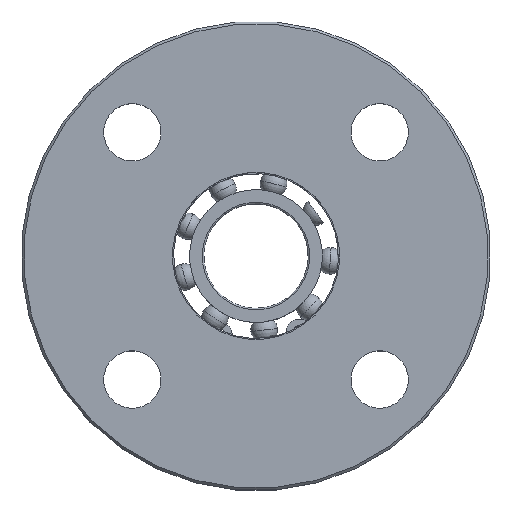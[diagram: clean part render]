
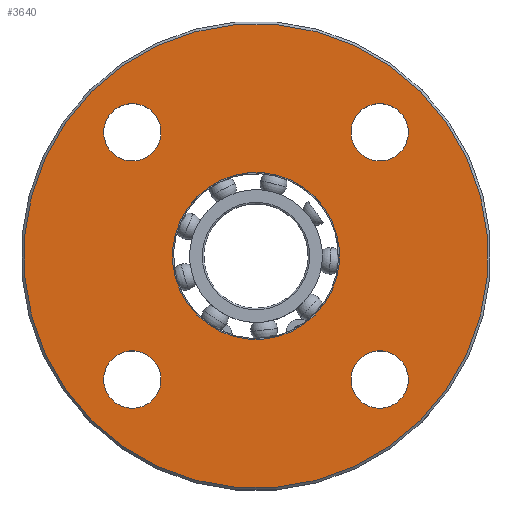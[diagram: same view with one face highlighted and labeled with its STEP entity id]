
A CAD part, top view. The second image highlights one B-rep face of the part: STEP entity #3640.
In plain terms, the highlighted planar face has unit normal (0, 0, 1).
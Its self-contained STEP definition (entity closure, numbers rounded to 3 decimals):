
#65 = CARTESIAN_POINT ( 'NONE',  ( -27.577, 27.577, 286. ) ) ;
#174 = AXIS2_PLACEMENT_3D ( 'NONE', #4052, #3653, #4420 ) ;
#238 = VERTEX_POINT ( 'NONE', #2422 ) ;
#274 = CIRCLE ( 'NONE', #4241, 5.5 ) ;
#341 = EDGE_LOOP ( 'NONE', ( #2489, #1641 ) ) ;
#358 = DIRECTION ( 'NONE',  ( -0.707, -0.707, 0. ) ) ;
#359 = AXIS2_PLACEMENT_3D ( 'NONE', #2735, #3406, #2775 ) ;
#573 = EDGE_CURVE ( 'NONE', #238, #2464, #750, .T. ) ;
#651 = CARTESIAN_POINT ( 'NONE',  ( 27.577, 27.577, 286. ) ) ;
#750 = CIRCLE ( 'NONE', #2147, 16. ) ;
#767 = AXIS2_PLACEMENT_3D ( 'NONE', #2224, #1228, #2304 ) ;
#799 = AXIS2_PLACEMENT_3D ( 'NONE', #1760, #3548, #2500 ) ;
#812 = EDGE_CURVE ( 'NONE', #1252, #4282, #3968, .T. ) ;
#824 = DIRECTION ( 'NONE',  ( 0.707, -0.707, 0. ) ) ;
#839 = CARTESIAN_POINT ( 'NONE',  ( 19.799, -19.799, 286. ) ) ;
#848 = ORIENTED_EDGE ( 'NONE', *, *, #2743, .T. ) ;
#876 = VERTEX_POINT ( 'NONE', #65 ) ;
#890 = DIRECTION ( 'NONE',  ( 0., 0., -1. ) ) ;
#909 = CIRCLE ( 'NONE', #3472, 5.5 ) ;
#927 = DIRECTION ( 'NONE',  ( 0., 0., -1. ) ) ;
#961 = EDGE_LOOP ( 'NONE', ( #4425, #2985 ) ) ;
#973 = DIRECTION ( 'NONE',  ( 0.707, -0.707, 0. ) ) ;
#1128 = FACE_OUTER_BOUND ( 'NONE', #1351, .T. ) ;
#1228 = DIRECTION ( 'NONE',  ( 0., 0., -1. ) ) ;
#1252 = VERTEX_POINT ( 'NONE', #839 ) ;
#1351 = EDGE_LOOP ( 'NONE', ( #3386, #1589 ) ) ;
#1376 = EDGE_CURVE ( 'NONE', #3884, #3478, #3296, .T. ) ;
#1427 = EDGE_LOOP ( 'NONE', ( #1704, #1773 ) ) ;
#1447 = PLANE ( 'NONE',  #3032 ) ;
#1544 = AXIS2_PLACEMENT_3D ( 'NONE', #1971, #3377, #1643 ) ;
#1583 = DIRECTION ( 'NONE',  ( 0., 0., -1. ) ) ;
#1589 = ORIENTED_EDGE ( 'NONE', *, *, #3558, .F. ) ;
#1641 = ORIENTED_EDGE ( 'NONE', *, *, #573, .T. ) ;
#1643 = DIRECTION ( 'NONE',  ( 0.707, 0.707, 0. ) ) ;
#1704 = ORIENTED_EDGE ( 'NONE', *, *, #4216, .T. ) ;
#1709 = CARTESIAN_POINT ( 'NONE',  ( 19.799, 19.799, 286. ) ) ;
#1740 = CARTESIAN_POINT ( 'NONE',  ( 0., 0., 286. ) ) ;
#1760 = CARTESIAN_POINT ( 'NONE',  ( 0., 0., 286. ) ) ;
#1762 = CARTESIAN_POINT ( 'NONE',  ( -19.799, 19.799, 286. ) ) ;
#1773 = ORIENTED_EDGE ( 'NONE', *, *, #3854, .T. ) ;
#1823 = FACE_BOUND ( 'NONE', #2239, .T. ) ;
#1847 = CARTESIAN_POINT ( 'NONE',  ( -23.688, 23.688, 286. ) ) ;
#1897 = DIRECTION ( 'NONE',  ( 0., 0., -1. ) ) ;
#1965 = EDGE_CURVE ( 'NONE', #4282, #1252, #2976, .T. ) ;
#1971 = CARTESIAN_POINT ( 'NONE',  ( -23.688, -23.688, 286. ) ) ;
#1989 = AXIS2_PLACEMENT_3D ( 'NONE', #4035, #890, #2293 ) ;
#2037 = DIRECTION ( 'NONE',  ( 0., 0., -1. ) ) ;
#2082 = EDGE_CURVE ( 'NONE', #3478, #3884, #909, .T. ) ;
#2128 = FACE_BOUND ( 'NONE', #1427, .T. ) ;
#2147 = AXIS2_PLACEMENT_3D ( 'NONE', #3051, #2699, #2634 ) ;
#2152 = CARTESIAN_POINT ( 'NONE',  ( -27.577, -27.577, 286. ) ) ;
#2224 = CARTESIAN_POINT ( 'NONE',  ( 0., 0., 286. ) ) ;
#2239 = EDGE_LOOP ( 'NONE', ( #4100, #848 ) ) ;
#2271 = EDGE_CURVE ( 'NONE', #2464, #238, #2754, .T. ) ;
#2293 = DIRECTION ( 'NONE',  ( -0.707, 0.707, 0. ) ) ;
#2299 = CARTESIAN_POINT ( 'NONE',  ( -19.799, -19.799, 286. ) ) ;
#2304 = DIRECTION ( 'NONE',  ( -0.707, 0.707, 0. ) ) ;
#2342 = CIRCLE ( 'NONE', #799, 44.5 ) ;
#2361 = VERTEX_POINT ( 'NONE', #2299 ) ;
#2377 = CARTESIAN_POINT ( 'NONE',  ( 23.688, 23.688, 286. ) ) ;
#2422 = CARTESIAN_POINT ( 'NONE',  ( 11.314, -11.314, 286. ) ) ;
#2433 = AXIS2_PLACEMENT_3D ( 'NONE', #3416, #2037, #973 ) ;
#2436 = CARTESIAN_POINT ( 'NONE',  ( -11.314, 11.314, 286. ) ) ;
#2464 = VERTEX_POINT ( 'NONE', #2436 ) ;
#2466 = VERTEX_POINT ( 'NONE', #1762 ) ;
#2489 = ORIENTED_EDGE ( 'NONE', *, *, #2271, .T. ) ;
#2500 = DIRECTION ( 'NONE',  ( 0.707, -0.707, 0. ) ) ;
#2530 = DIRECTION ( 'NONE',  ( 0., 0., 1. ) ) ;
#2579 = CARTESIAN_POINT ( 'NONE',  ( -23.688, 23.688, 286. ) ) ;
#2610 = VERTEX_POINT ( 'NONE', #2799 ) ;
#2626 = EDGE_CURVE ( 'NONE', #2361, #3729, #3224, .T. ) ;
#2634 = DIRECTION ( 'NONE',  ( -0.707, 0.707, 0. ) ) ;
#2699 = DIRECTION ( 'NONE',  ( 0., 0., -1. ) ) ;
#2713 = CIRCLE ( 'NONE', #4457, 5.5 ) ;
#2735 = CARTESIAN_POINT ( 'NONE',  ( -23.688, -23.688, 286. ) ) ;
#2743 = EDGE_CURVE ( 'NONE', #3729, #2361, #4532, .T. ) ;
#2754 = CIRCLE ( 'NONE', #767, 16. ) ;
#2775 = DIRECTION ( 'NONE',  ( 0.707, 0.707, 0. ) ) ;
#2799 = CARTESIAN_POINT ( 'NONE',  ( -31.466, 31.466, 286. ) ) ;
#2827 = FACE_BOUND ( 'NONE', #961, .T. ) ;
#2866 = ORIENTED_EDGE ( 'NONE', *, *, #1376, .T. ) ;
#2976 = CIRCLE ( 'NONE', #174, 5.5 ) ;
#2985 = ORIENTED_EDGE ( 'NONE', *, *, #1965, .T. ) ;
#3032 = AXIS2_PLACEMENT_3D ( 'NONE', #1740, #2530, #358 ) ;
#3051 = CARTESIAN_POINT ( 'NONE',  ( 0., 0., 286. ) ) ;
#3212 = FACE_BOUND ( 'NONE', #4372, .T. ) ;
#3224 = CIRCLE ( 'NONE', #359, 5.5 ) ;
#3236 = FACE_BOUND ( 'NONE', #341, .T. ) ;
#3245 = ORIENTED_EDGE ( 'NONE', *, *, #2082, .T. ) ;
#3258 = DIRECTION ( 'NONE',  ( 0.707, -0.707, 0. ) ) ;
#3265 = VERTEX_POINT ( 'NONE', #3458 ) ;
#3296 = CIRCLE ( 'NONE', #3877, 5.5 ) ;
#3323 = DIRECTION ( 'NONE',  ( 0., 0., -1. ) ) ;
#3377 = DIRECTION ( 'NONE',  ( 0., 0., -1. ) ) ;
#3386 = ORIENTED_EDGE ( 'NONE', *, *, #3993, .F. ) ;
#3406 = DIRECTION ( 'NONE',  ( 0., 0., -1. ) ) ;
#3416 = CARTESIAN_POINT ( 'NONE',  ( 0., 0., 286. ) ) ;
#3458 = CARTESIAN_POINT ( 'NONE',  ( 31.466, -31.466, 286. ) ) ;
#3472 = AXIS2_PLACEMENT_3D ( 'NONE', #2377, #927, #3769 ) ;
#3478 = VERTEX_POINT ( 'NONE', #1709 ) ;
#3524 = CIRCLE ( 'NONE', #2433, 44.5 ) ;
#3548 = DIRECTION ( 'NONE',  ( 0., 0., -1. ) ) ;
#3558 = EDGE_CURVE ( 'NONE', #2610, #3265, #3524, .T. ) ;
#3640 = ADVANCED_FACE ( 'NONE', ( #2827, #3212, #1823, #2128, #3236, #1128 ), #1447, .T. ) ;
#3653 = DIRECTION ( 'NONE',  ( 0., 0., -1. ) ) ;
#3729 = VERTEX_POINT ( 'NONE', #2152 ) ;
#3769 = DIRECTION ( 'NONE',  ( -0.707, -0.707, 0. ) ) ;
#3854 = EDGE_CURVE ( 'NONE', #876, #2466, #274, .T. ) ;
#3877 = AXIS2_PLACEMENT_3D ( 'NONE', #4098, #1583, #4080 ) ;
#3884 = VERTEX_POINT ( 'NONE', #651 ) ;
#3968 = CIRCLE ( 'NONE', #1989, 5.5 ) ;
#3993 = EDGE_CURVE ( 'NONE', #3265, #2610, #2342, .T. ) ;
#4035 = CARTESIAN_POINT ( 'NONE',  ( 23.688, -23.688, 286. ) ) ;
#4052 = CARTESIAN_POINT ( 'NONE',  ( 23.688, -23.688, 286. ) ) ;
#4080 = DIRECTION ( 'NONE',  ( -0.707, -0.707, 0. ) ) ;
#4098 = CARTESIAN_POINT ( 'NONE',  ( 23.688, 23.688, 286. ) ) ;
#4100 = ORIENTED_EDGE ( 'NONE', *, *, #2626, .T. ) ;
#4144 = CARTESIAN_POINT ( 'NONE',  ( 27.577, -27.577, 286. ) ) ;
#4216 = EDGE_CURVE ( 'NONE', #2466, #876, #2713, .T. ) ;
#4241 = AXIS2_PLACEMENT_3D ( 'NONE', #1847, #1897, #3258 ) ;
#4282 = VERTEX_POINT ( 'NONE', #4144 ) ;
#4372 = EDGE_LOOP ( 'NONE', ( #3245, #2866 ) ) ;
#4420 = DIRECTION ( 'NONE',  ( -0.707, 0.707, 0. ) ) ;
#4425 = ORIENTED_EDGE ( 'NONE', *, *, #812, .T. ) ;
#4457 = AXIS2_PLACEMENT_3D ( 'NONE', #2579, #3323, #824 ) ;
#4532 = CIRCLE ( 'NONE', #1544, 5.5 ) ;
